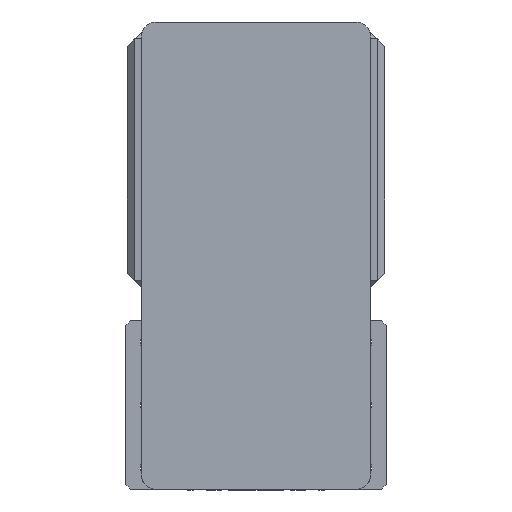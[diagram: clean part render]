
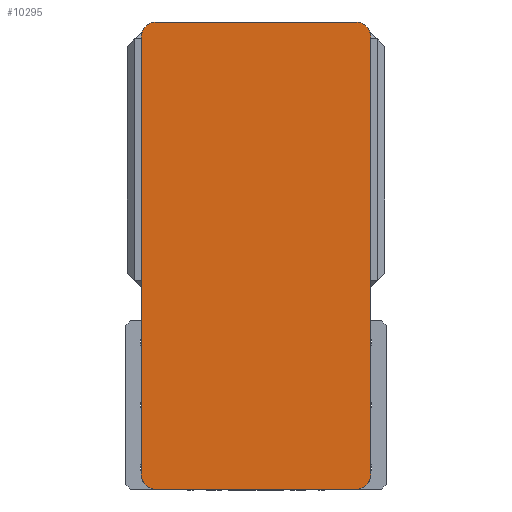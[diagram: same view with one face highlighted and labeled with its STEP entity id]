
A CAD part, left-side view. The second image highlights one B-rep face of the part: STEP entity #10295.
In plain terms, the highlighted planar face has unit normal (-1, 0, 0) as drawn and (0, 0, 1) by its records, which use the part's own axes.
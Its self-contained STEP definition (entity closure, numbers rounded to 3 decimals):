
#127 = VERTEX_POINT ( 'NONE', #14560 ) ;
#926 = DIRECTION ( 'NONE',  ( 0., 0., 1. ) ) ;
#1112 = PLANE ( 'NONE',  #4585 ) ;
#1138 = DIRECTION ( 'NONE',  ( 0., 0., 1. ) ) ;
#1241 = VERTEX_POINT ( 'NONE', #9280 ) ;
#1397 = CIRCLE ( 'NONE', #14125, 10. ) ;
#1422 = EDGE_CURVE ( 'NONE', #21387, #20849, #22630, .T. ) ;
#1621 = LINE ( 'NONE', #13985, #15105 ) ;
#2175 = AXIS2_PLACEMENT_3D ( 'NONE', #11467, #926, #13267 ) ;
#2475 = EDGE_CURVE ( 'NONE', #20849, #11858, #1621, .T. ) ;
#4585 = AXIS2_PLACEMENT_3D ( 'NONE', #13451, #15218, #4663 ) ;
#4663 = DIRECTION ( 'NONE',  ( 1., 0., 0. ) ) ;
#4959 = CARTESIAN_POINT ( 'NONE',  ( 75., -142.5, 105. ) ) ;
#5836 = EDGE_LOOP ( 'NONE', ( #19952, #20513, #15254, #22543, #6870, #20047, #13051, #7245 ) ) ;
#6145 = EDGE_CURVE ( 'NONE', #22107, #127, #10670, .T. ) ;
#6870 = ORIENTED_EDGE ( 'NONE', *, *, #11979, .T. ) ;
#6970 = LINE ( 'NONE', #10300, #11087 ) ;
#7245 = ORIENTED_EDGE ( 'NONE', *, *, #14846, .T. ) ;
#7614 = DIRECTION ( 'NONE',  ( 0., 0., 1. ) ) ;
#7764 = AXIS2_PLACEMENT_3D ( 'NONE', #18208, #7614, #19972 ) ;
#7779 = DIRECTION ( 'NONE',  ( -1., 0., 0. ) ) ;
#7840 = FACE_OUTER_BOUND ( 'NONE', #5836, .T. ) ;
#8049 = EDGE_CURVE ( 'NONE', #1241, #13271, #14555, .T. ) ;
#9280 = CARTESIAN_POINT ( 'NONE',  ( -65., -152.5, 105. ) ) ;
#9622 = CARTESIAN_POINT ( 'NONE',  ( -75., 142.5, 105. ) ) ;
#9673 = DIRECTION ( 'NONE',  ( 1., 0., 0. ) ) ;
#10014 = VERTEX_POINT ( 'NONE', #4959 ) ;
#10295 = ADVANCED_FACE ( 'NONE', ( #7840 ), #1112, .T. ) ;
#10300 = CARTESIAN_POINT ( 'NONE',  ( 75., 152.5, 105. ) ) ;
#10670 = CIRCLE ( 'NONE', #2175, 10. ) ;
#11087 = VECTOR ( 'NONE', #12084, 1000. ) ;
#11467 = CARTESIAN_POINT ( 'NONE',  ( 65., 142.5, 105. ) ) ;
#11684 = CARTESIAN_POINT ( 'NONE',  ( 65., -142.5, 105. ) ) ;
#11858 = VERTEX_POINT ( 'NONE', #18227 ) ;
#11979 = EDGE_CURVE ( 'NONE', #127, #21387, #16087, .T. ) ;
#12084 = DIRECTION ( 'NONE',  ( 0., 1., 0. ) ) ;
#12203 = CARTESIAN_POINT ( 'NONE',  ( -65., 142.5, 105. ) ) ;
#12278 = DIRECTION ( 'NONE',  ( 0., 0., 1. ) ) ;
#12281 = EDGE_CURVE ( 'NONE', #10014, #22107, #6970, .T. ) ;
#12353 = DIRECTION ( 'NONE',  ( 1., 0., 0. ) ) ;
#13051 = ORIENTED_EDGE ( 'NONE', *, *, #2475, .T. ) ;
#13267 = DIRECTION ( 'NONE',  ( 1., 0., 0. ) ) ;
#13271 = VERTEX_POINT ( 'NONE', #16375 ) ;
#13451 = CARTESIAN_POINT ( 'NONE',  ( 0., 0., 105. ) ) ;
#13481 = DIRECTION ( 'NONE',  ( 1., 0., 0. ) ) ;
#13985 = CARTESIAN_POINT ( 'NONE',  ( -75., 152.5, 105. ) ) ;
#14125 = AXIS2_PLACEMENT_3D ( 'NONE', #11684, #1138, #13481 ) ;
#14430 = EDGE_CURVE ( 'NONE', #13271, #10014, #1397, .T. ) ;
#14555 = LINE ( 'NONE', #18651, #22857 ) ;
#14560 = CARTESIAN_POINT ( 'NONE',  ( 65., 152.5, 105. ) ) ;
#14846 = EDGE_CURVE ( 'NONE', #11858, #1241, #22135, .T. ) ;
#15105 = VECTOR ( 'NONE', #17538, 1000. ) ;
#15218 = DIRECTION ( 'NONE',  ( 0., 0., 1. ) ) ;
#15254 = ORIENTED_EDGE ( 'NONE', *, *, #12281, .T. ) ;
#15285 = CARTESIAN_POINT ( 'NONE',  ( -65., 152.5, 105. ) ) ;
#16087 = LINE ( 'NONE', #20148, #20241 ) ;
#16375 = CARTESIAN_POINT ( 'NONE',  ( 65., -152.5, 105. ) ) ;
#16717 = CARTESIAN_POINT ( 'NONE',  ( 75., 142.5, 105. ) ) ;
#17538 = DIRECTION ( 'NONE',  ( 0., -1., 0. ) ) ;
#18208 = CARTESIAN_POINT ( 'NONE',  ( -65., -142.5, 105. ) ) ;
#18227 = CARTESIAN_POINT ( 'NONE',  ( -75., -142.5, 105. ) ) ;
#18651 = CARTESIAN_POINT ( 'NONE',  ( -75., -152.5, 105. ) ) ;
#19928 = AXIS2_PLACEMENT_3D ( 'NONE', #12203, #12278, #12353 ) ;
#19952 = ORIENTED_EDGE ( 'NONE', *, *, #8049, .T. ) ;
#19972 = DIRECTION ( 'NONE',  ( 1., 0., 0. ) ) ;
#20047 = ORIENTED_EDGE ( 'NONE', *, *, #1422, .T. ) ;
#20148 = CARTESIAN_POINT ( 'NONE',  ( -75., 152.5, 105. ) ) ;
#20241 = VECTOR ( 'NONE', #7779, 1000. ) ;
#20513 = ORIENTED_EDGE ( 'NONE', *, *, #14430, .T. ) ;
#20849 = VERTEX_POINT ( 'NONE', #9622 ) ;
#21387 = VERTEX_POINT ( 'NONE', #15285 ) ;
#22107 = VERTEX_POINT ( 'NONE', #16717 ) ;
#22135 = CIRCLE ( 'NONE', #7764, 10. ) ;
#22543 = ORIENTED_EDGE ( 'NONE', *, *, #6145, .T. ) ;
#22630 = CIRCLE ( 'NONE', #19928, 10. ) ;
#22857 = VECTOR ( 'NONE', #9673, 1000. ) ;
